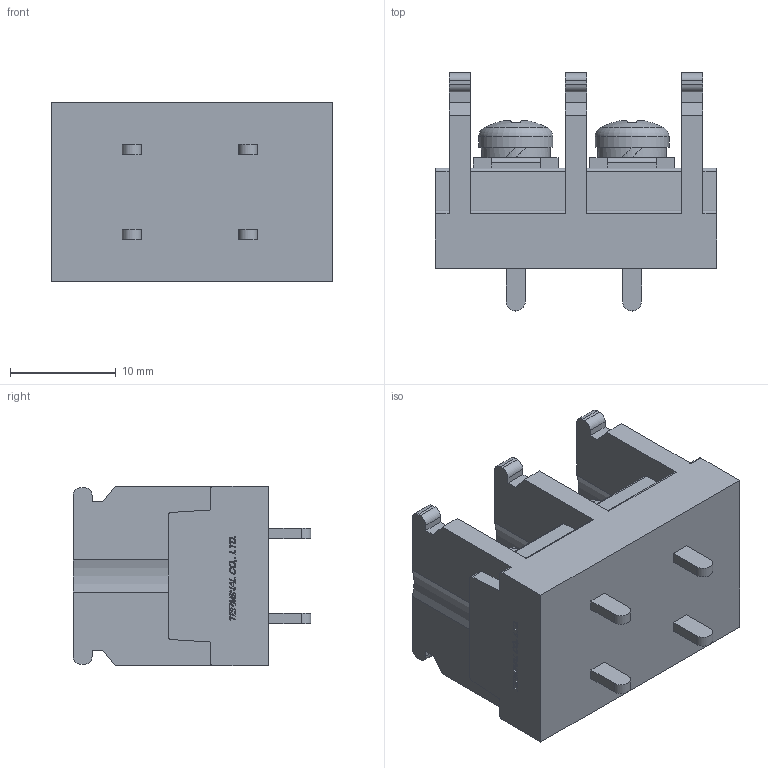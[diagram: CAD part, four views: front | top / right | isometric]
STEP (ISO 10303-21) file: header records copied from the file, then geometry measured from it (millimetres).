
FILE_DESCRIPTION(/* description */ ('Alibre Inc.'),/* implementation_level */ '2;1');
FILE_NAME(/* name */ 'export0',/* time_stamp */ '2015-10-19T19:39:06+09:00',/* author */ (''),/* organization */ (''),/* preprocessor_version */ 'ST-DEVELOPER v14',/* originating_system */ 'Alibre',/* authorisation */ '');
FILE_SCHEMA (('CONFIG_CONTROL_DESIGN'));
Length unit declared in the file: centimetre
Products named in the file (1): ID_1
Bounding box: 26.6 x 22.5 x 17 mm (x, y, z)
Volume: 5112 mm3; surface area: 3200.6 mm2
Topology: 1 solids, 1 shells, 568 faces, 1548 edges, 1030 vertices
Faces by surface type: plane 402, bspline 104, cylinder 48, cone 8, torus 4, sphere 2
Full cylindrical faces by diameter (mm): 4 x2, 6.5 x2, 7 x2
Entity records: 17451 total; most frequent: CARTESIAN_POINT 4107, ORIENTED_EDGE 3068, DIRECTION 1972, EDGE_CURVE 1534, VECTOR 1150, LINE 1150, VERTEX_POINT 1024, EDGE_LOOP 628
